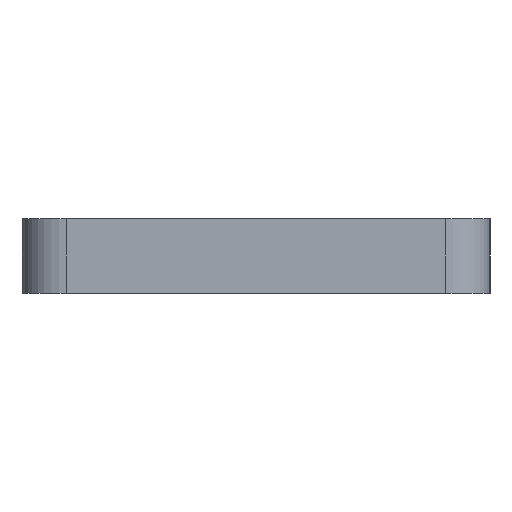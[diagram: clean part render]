
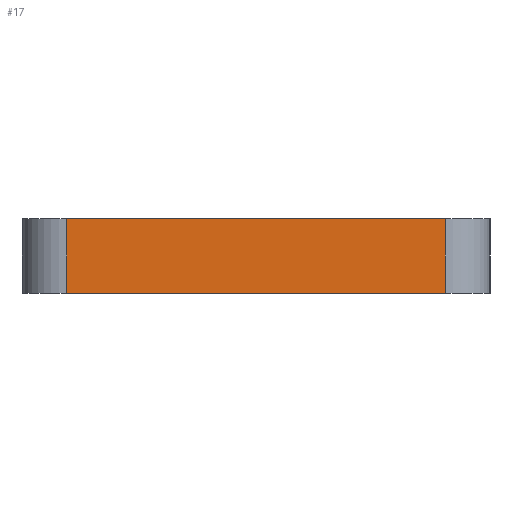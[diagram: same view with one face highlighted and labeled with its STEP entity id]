
A CAD part, left-side view. The second image highlights one B-rep face of the part: STEP entity #17.
In plain terms, the highlighted planar face has unit normal (-1, 0, 0).
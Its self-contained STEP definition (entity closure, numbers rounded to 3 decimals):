
#17 = ADVANCED_FACE('',(#18),#32,.T.);
#18 = FACE_BOUND('',#19,.T.);
#19 = EDGE_LOOP('',(#20,#55,#83,#111));
#20 = ORIENTED_EDGE('',*,*,#21,.T.);
#21 = EDGE_CURVE('',#22,#24,#26,.T.);
#22 = VERTEX_POINT('',#23);
#23 = CARTESIAN_POINT('',(0.,4.,0.));
#24 = VERTEX_POINT('',#25);
#25 = CARTESIAN_POINT('',(0.,4.,6.65));
#26 = SURFACE_CURVE('',#27,(#31,#43),.PCURVE_S1.);
#27 = LINE('',#28,#29);
#28 = CARTESIAN_POINT('',(0.,4.,0.));
#29 = VECTOR('',#30,1.);
#30 = DIRECTION('',(0.,0.,1.));
#31 = PCURVE('',#32,#37);
#32 = PLANE('',#33);
#33 = AXIS2_PLACEMENT_3D('',#34,#35,#36);
#34 = CARTESIAN_POINT('',(0.,4.,0.));
#35 = DIRECTION('',(-1.,0.,0.));
#36 = DIRECTION('',(0.,1.,0.));
#37 = DEFINITIONAL_REPRESENTATION('',(#38),#42);
#38 = LINE('',#39,#40);
#39 = CARTESIAN_POINT('',(0.,0.));
#40 = VECTOR('',#41,1.);
#41 = DIRECTION('',(0.,-1.));
#42 = ( GEOMETRIC_REPRESENTATION_CONTEXT(2) 
PARAMETRIC_REPRESENTATION_CONTEXT() REPRESENTATION_CONTEXT('2D SPACE',''
  ) );
#43 = PCURVE('',#44,#49);
#44 = CYLINDRICAL_SURFACE('',#45,4.);
#45 = AXIS2_PLACEMENT_3D('',#46,#47,#48);
#46 = CARTESIAN_POINT('',(4.,4.,0.));
#47 = DIRECTION('',(-0.,-0.,-1.));
#48 = DIRECTION('',(1.,0.,0.));
#49 = DEFINITIONAL_REPRESENTATION('',(#50),#54);
#50 = LINE('',#51,#52);
#51 = CARTESIAN_POINT('',(-3.142,0.));
#52 = VECTOR('',#53,1.);
#53 = DIRECTION('',(-0.,-1.));
#54 = ( GEOMETRIC_REPRESENTATION_CONTEXT(2) 
PARAMETRIC_REPRESENTATION_CONTEXT() REPRESENTATION_CONTEXT('2D SPACE',''
  ) );
#55 = ORIENTED_EDGE('',*,*,#56,.T.);
#56 = EDGE_CURVE('',#24,#57,#59,.T.);
#57 = VERTEX_POINT('',#58);
#58 = CARTESIAN_POINT('',(0.,38.,6.65));
#59 = SURFACE_CURVE('',#60,(#64,#71),.PCURVE_S1.);
#60 = LINE('',#61,#62);
#61 = CARTESIAN_POINT('',(0.,21.,6.65));
#62 = VECTOR('',#63,1.);
#63 = DIRECTION('',(0.,1.,0.));
#64 = PCURVE('',#32,#65);
#65 = DEFINITIONAL_REPRESENTATION('',(#66),#70);
#66 = LINE('',#67,#68);
#67 = CARTESIAN_POINT('',(17.,-6.65));
#68 = VECTOR('',#69,1.);
#69 = DIRECTION('',(1.,0.));
#70 = ( GEOMETRIC_REPRESENTATION_CONTEXT(2) 
PARAMETRIC_REPRESENTATION_CONTEXT() REPRESENTATION_CONTEXT('2D SPACE',''
  ) );
#71 = PCURVE('',#72,#77);
#72 = PLANE('',#73);
#73 = AXIS2_PLACEMENT_3D('',#74,#75,#76);
#74 = CARTESIAN_POINT('',(0.,21.,6.65));
#75 = DIRECTION('',(-0.707,0.,-0.707));
#76 = DIRECTION('',(0.,-1.,-0.));
#77 = DEFINITIONAL_REPRESENTATION('',(#78),#82);
#78 = LINE('',#79,#80);
#79 = CARTESIAN_POINT('',(0.,0.));
#80 = VECTOR('',#81,1.);
#81 = DIRECTION('',(-1.,0.));
#82 = ( GEOMETRIC_REPRESENTATION_CONTEXT(2) 
PARAMETRIC_REPRESENTATION_CONTEXT() REPRESENTATION_CONTEXT('2D SPACE',''
  ) );
#83 = ORIENTED_EDGE('',*,*,#84,.F.);
#84 = EDGE_CURVE('',#85,#57,#87,.T.);
#85 = VERTEX_POINT('',#86);
#86 = CARTESIAN_POINT('',(0.,38.,0.));
#87 = SURFACE_CURVE('',#88,(#92,#99),.PCURVE_S1.);
#88 = LINE('',#89,#90);
#89 = CARTESIAN_POINT('',(0.,38.,0.));
#90 = VECTOR('',#91,1.);
#91 = DIRECTION('',(0.,0.,1.));
#92 = PCURVE('',#32,#93);
#93 = DEFINITIONAL_REPRESENTATION('',(#94),#98);
#94 = LINE('',#95,#96);
#95 = CARTESIAN_POINT('',(34.,0.));
#96 = VECTOR('',#97,1.);
#97 = DIRECTION('',(0.,-1.));
#98 = ( GEOMETRIC_REPRESENTATION_CONTEXT(2) 
PARAMETRIC_REPRESENTATION_CONTEXT() REPRESENTATION_CONTEXT('2D SPACE',''
  ) );
#99 = PCURVE('',#100,#105);
#100 = CYLINDRICAL_SURFACE('',#101,4.);
#101 = AXIS2_PLACEMENT_3D('',#102,#103,#104);
#102 = CARTESIAN_POINT('',(4.,38.,0.));
#103 = DIRECTION('',(-0.,-0.,-1.));
#104 = DIRECTION('',(1.,0.,0.));
#105 = DEFINITIONAL_REPRESENTATION('',(#106),#110);
#106 = LINE('',#107,#108);
#107 = CARTESIAN_POINT('',(-3.142,0.));
#108 = VECTOR('',#109,1.);
#109 = DIRECTION('',(-0.,-1.));
#110 = ( GEOMETRIC_REPRESENTATION_CONTEXT(2) 
PARAMETRIC_REPRESENTATION_CONTEXT() REPRESENTATION_CONTEXT('2D SPACE',''
  ) );
#111 = ORIENTED_EDGE('',*,*,#112,.F.);
#112 = EDGE_CURVE('',#22,#85,#113,.T.);
#113 = SURFACE_CURVE('',#114,(#118,#125),.PCURVE_S1.);
#114 = LINE('',#115,#116);
#115 = CARTESIAN_POINT('',(0.,21.,0.));
#116 = VECTOR('',#117,1.);
#117 = DIRECTION('',(0.,1.,0.));
#118 = PCURVE('',#32,#119);
#119 = DEFINITIONAL_REPRESENTATION('',(#120),#124);
#120 = LINE('',#121,#122);
#121 = CARTESIAN_POINT('',(17.,0.));
#122 = VECTOR('',#123,1.);
#123 = DIRECTION('',(1.,0.));
#124 = ( GEOMETRIC_REPRESENTATION_CONTEXT(2) 
PARAMETRIC_REPRESENTATION_CONTEXT() REPRESENTATION_CONTEXT('2D SPACE',''
  ) );
#125 = PCURVE('',#126,#131);
#126 = PLANE('',#127);
#127 = AXIS2_PLACEMENT_3D('',#128,#129,#130);
#128 = CARTESIAN_POINT('',(105.,21.,0.));
#129 = DIRECTION('',(0.,0.,1.));
#130 = DIRECTION('',(1.,0.,-0.));
#131 = DEFINITIONAL_REPRESENTATION('',(#132),#136);
#132 = LINE('',#133,#134);
#133 = CARTESIAN_POINT('',(-105.,0.));
#134 = VECTOR('',#135,1.);
#135 = DIRECTION('',(0.,1.));
#136 = ( GEOMETRIC_REPRESENTATION_CONTEXT(2) 
PARAMETRIC_REPRESENTATION_CONTEXT() REPRESENTATION_CONTEXT('2D SPACE',''
  ) );
